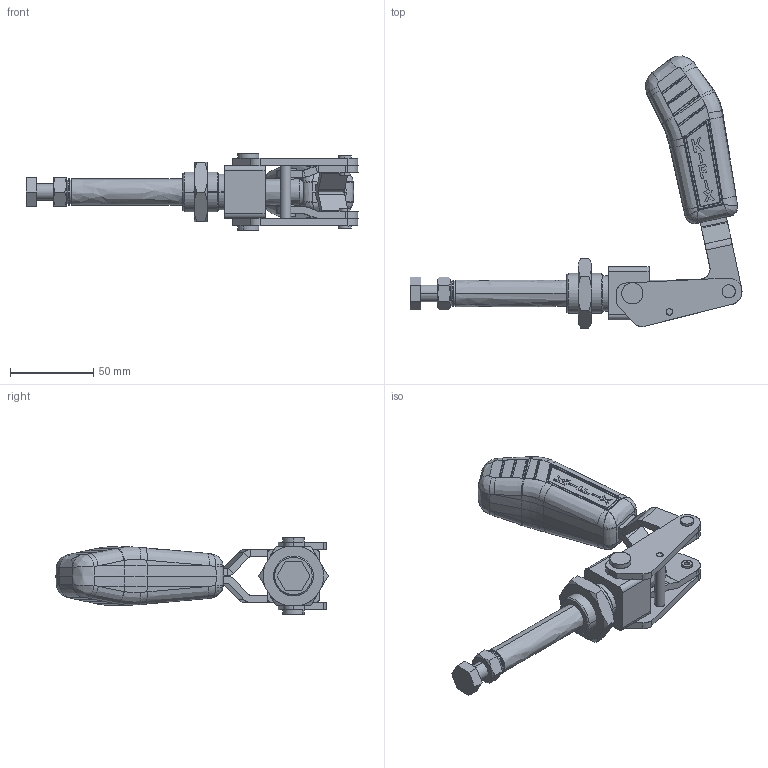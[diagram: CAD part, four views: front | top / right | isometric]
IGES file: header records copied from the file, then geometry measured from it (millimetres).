
Start section: SolidWorks IGES file using analytic representation for surfaces
Global section: file name: C:\Projetos\Grampos\KF-035\KF-035.IGS; native system: SolidWorks 2013; preprocessor: SolidWorks 2013; author: Ricardo; date: 140826.151002; units: millimetre
Bounding box: 199.38 x 163.4 x 46.25 mm (x, y, z)
Surface area: 66321.3 mm2 (no closed solid volume)
Topology: 0 solids, 0 shells, 662 faces, 7401 edges, 7370 vertices
Faces by surface type: bspline 390, revolution 272
